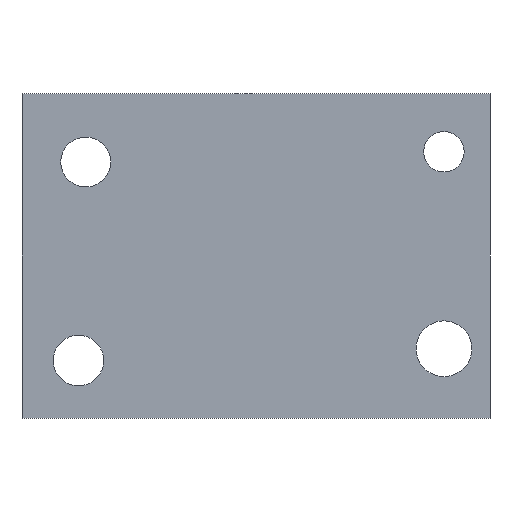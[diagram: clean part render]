
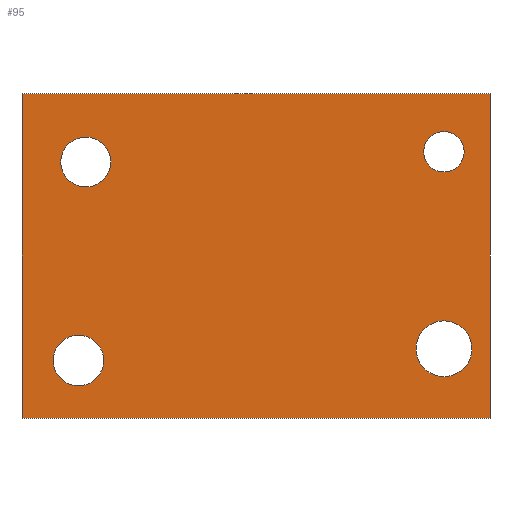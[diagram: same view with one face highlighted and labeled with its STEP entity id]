
A CAD part, top view. The second image highlights one B-rep face of the part: STEP entity #95.
In plain terms, the highlighted planar face has unit normal (0, 0, 1).
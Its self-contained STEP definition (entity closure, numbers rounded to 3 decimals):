
#1 = DIRECTION ( 'NONE',  ( 0., 0., 1. ) ) ;
#2 = LINE ( 'NONE', #97, #55 ) ;
#5 = PLANE ( 'NONE',  #59 ) ;
#7 = AXIS2_PLACEMENT_3D ( 'NONE', #51, #71, #132 ) ;
#9 = FACE_BOUND ( 'NONE', #75, .T. ) ;
#11 = ORIENTED_EDGE ( 'NONE', *, *, #126, .T. ) ;
#12 = CARTESIAN_POINT ( 'NONE',  ( -29.945, -22.959, 0. ) ) ;
#14 = LINE ( 'NONE', #151, #21 ) ;
#16 = CARTESIAN_POINT ( 'NONE',  ( 56.085, -35.023, 0. ) ) ;
#17 = DIRECTION ( 'NONE',  ( -1., 0., 0. ) ) ;
#19 = FACE_OUTER_BOUND ( 'NONE', #62, .T. ) ;
#21 = VECTOR ( 'NONE', #17, 1000. ) ;
#24 = FACE_BOUND ( 'NONE', #128, .T. ) ;
#25 = VECTOR ( 'NONE', #91, 1000. ) ;
#26 = ORIENTED_EDGE ( 'NONE', *, *, #27, .F. ) ;
#27 = EDGE_CURVE ( 'NONE', #153, #153, #143, .T. ) ;
#30 = CARTESIAN_POINT ( 'NONE',  ( 56.085, 32.826, 0. ) ) ;
#32 = CARTESIAN_POINT ( 'NONE',  ( -41.743, 32.826, 0. ) ) ;
#34 = ORIENTED_EDGE ( 'NONE', *, *, #103, .F. ) ;
#35 = VECTOR ( 'NONE', #42, 1000. ) ;
#42 = DIRECTION ( 'NONE',  ( 1., 0., 0. ) ) ;
#44 = ORIENTED_EDGE ( 'NONE', *, *, #89, .F. ) ;
#48 = CARTESIAN_POINT ( 'NONE',  ( 52.29, -20.487, 0. ) ) ;
#51 = CARTESIAN_POINT ( 'NONE',  ( 46.462, 20.689, 0. ) ) ;
#54 = VERTEX_POINT ( 'NONE', #115 ) ;
#55 = VECTOR ( 'NONE', #83, 1000. ) ;
#56 = ORIENTED_EDGE ( 'NONE', *, *, #74, .T. ) ;
#58 = EDGE_LOOP ( 'NONE', ( #44 ) ) ;
#59 = AXIS2_PLACEMENT_3D ( 'NONE', #165, #119, #134 ) ;
#60 = VERTEX_POINT ( 'NONE', #172 ) ;
#62 = EDGE_LOOP ( 'NONE', ( #56, #170, #11, #113 ) ) ;
#65 = CARTESIAN_POINT ( 'NONE',  ( -23.204, 18.545, 0. ) ) ;
#67 = VERTEX_POINT ( 'NONE', #168 ) ;
#69 = CARTESIAN_POINT ( 'NONE',  ( -24.653, -22.959, 0. ) ) ;
#71 = DIRECTION ( 'NONE',  ( 0., 0., 1. ) ) ;
#74 = EDGE_CURVE ( 'NONE', #54, #60, #159, .T. ) ;
#75 = EDGE_LOOP ( 'NONE', ( #34 ) ) ;
#77 = FACE_BOUND ( 'NONE', #145, .T. ) ;
#82 = DIRECTION ( 'NONE',  ( 1., 0., 0. ) ) ;
#83 = DIRECTION ( 'NONE',  ( 0., 1., 0. ) ) ;
#84 = CARTESIAN_POINT ( 'NONE',  ( -41.743, -35.023, 0. ) ) ;
#89 = EDGE_CURVE ( 'NONE', #106, #106, #130, .T. ) ;
#91 = DIRECTION ( 'NONE',  ( 0., -1., 0. ) ) ;
#92 = DIRECTION ( 'NONE',  ( 1., 0., 0. ) ) ;
#93 = CIRCLE ( 'NONE', #96, 5.292 ) ;
#95 = ADVANCED_FACE ( 'NONE', ( #24, #77, #9, #161, #19 ), #5, .T. ) ;
#96 = AXIS2_PLACEMENT_3D ( 'NONE', #12, #167, #82 ) ;
#97 = CARTESIAN_POINT ( 'NONE',  ( 56.085, 32.826, 0. ) ) ;
#102 = CARTESIAN_POINT ( 'NONE',  ( -28.42, 18.545, 0. ) ) ;
#103 = EDGE_CURVE ( 'NONE', #67, #67, #157, .T. ) ;
#104 = DIRECTION ( 'NONE',  ( 1., 0., 0. ) ) ;
#106 = VERTEX_POINT ( 'NONE', #48 ) ;
#111 = DIRECTION ( 'NONE',  ( 0., 0., 1. ) ) ;
#113 = ORIENTED_EDGE ( 'NONE', *, *, #123, .T. ) ;
#115 = CARTESIAN_POINT ( 'NONE',  ( -41.743, 32.826, 0. ) ) ;
#117 = VERTEX_POINT ( 'NONE', #69 ) ;
#119 = DIRECTION ( 'NONE',  ( 0., 0., 1. ) ) ;
#123 = EDGE_CURVE ( 'NONE', #142, #54, #14, .T. ) ;
#124 = AXIS2_PLACEMENT_3D ( 'NONE', #102, #111, #104 ) ;
#125 = ORIENTED_EDGE ( 'NONE', *, *, #140, .F. ) ;
#126 = EDGE_CURVE ( 'NONE', #127, #142, #2, .T. ) ;
#127 = VERTEX_POINT ( 'NONE', #16 ) ;
#128 = EDGE_LOOP ( 'NONE', ( #125 ) ) ;
#129 = LINE ( 'NONE', #84, #35 ) ;
#130 = CIRCLE ( 'NONE', #139, 5.827 ) ;
#132 = DIRECTION ( 'NONE',  ( 1., 0., 0. ) ) ;
#134 = DIRECTION ( 'NONE',  ( 1., 0., 0. ) ) ;
#139 = AXIS2_PLACEMENT_3D ( 'NONE', #141, #1, #92 ) ;
#140 = EDGE_CURVE ( 'NONE', #117, #117, #93, .T. ) ;
#141 = CARTESIAN_POINT ( 'NONE',  ( 46.462, -20.487, 0. ) ) ;
#142 = VERTEX_POINT ( 'NONE', #30 ) ;
#143 = CIRCLE ( 'NONE', #124, 5.217 ) ;
#144 = EDGE_CURVE ( 'NONE', #60, #127, #129, .T. ) ;
#145 = EDGE_LOOP ( 'NONE', ( #26 ) ) ;
#151 = CARTESIAN_POINT ( 'NONE',  ( 31.985, 32.826, 0. ) ) ;
#153 = VERTEX_POINT ( 'NONE', #65 ) ;
#157 = CIRCLE ( 'NONE', #7, 4.226 ) ;
#159 = LINE ( 'NONE', #32, #25 ) ;
#161 = FACE_BOUND ( 'NONE', #58, .T. ) ;
#165 = CARTESIAN_POINT ( 'NONE',  ( 0., 0., 0. ) ) ;
#167 = DIRECTION ( 'NONE',  ( 0., 0., 1. ) ) ;
#168 = CARTESIAN_POINT ( 'NONE',  ( 50.689, 20.689, 0. ) ) ;
#170 = ORIENTED_EDGE ( 'NONE', *, *, #144, .T. ) ;
#172 = CARTESIAN_POINT ( 'NONE',  ( -41.743, -35.023, 0. ) ) ;
